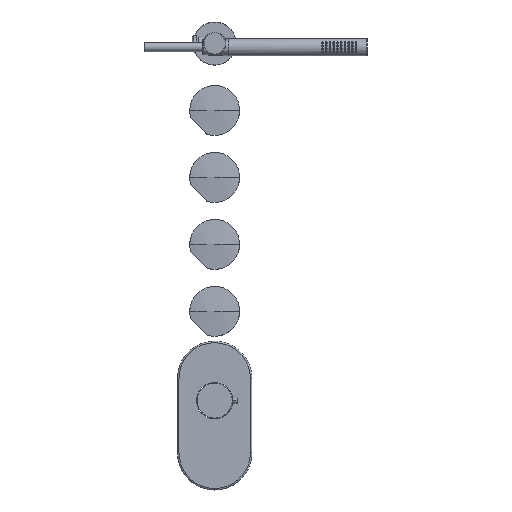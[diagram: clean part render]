
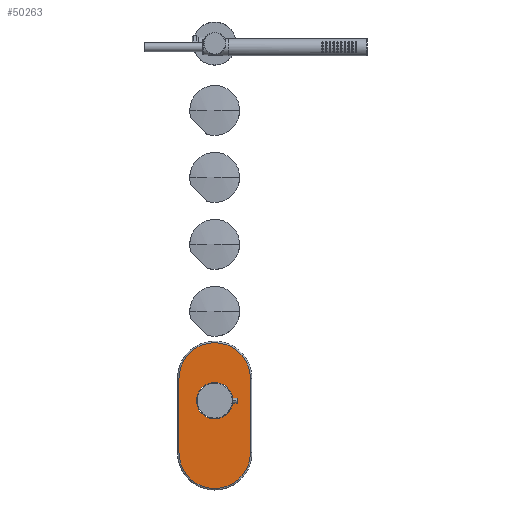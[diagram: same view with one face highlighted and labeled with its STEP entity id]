
A CAD part, top view. The second image highlights one B-rep face of the part: STEP entity #50263.
In plain terms, the highlighted planar face has unit normal (0, 0, 1).
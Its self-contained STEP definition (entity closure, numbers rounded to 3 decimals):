
#49854=DIRECTION('',(0.,1.,0.));
#49855=VECTOR('',#49854,100.);
#49856=CARTESIAN_POINT('',(48.,-70.,7.));
#49857=LINE('',#49856,#49855);
#49858=CARTESIAN_POINT('',(0.,-70.,7.));
#49859=DIRECTION('',(0.,0.,1.));
#49860=DIRECTION('',(-1.,0.,0.));
#49861=AXIS2_PLACEMENT_3D('',#49858,#49859,#49860);
#49863=DIRECTION('',(0.,-1.,0.));
#49864=VECTOR('',#49863,100.);
#49865=CARTESIAN_POINT('',(-48.,30.,7.));
#49866=LINE('',#49865,#49864);
#49867=CARTESIAN_POINT('',(0.,30.,7.));
#49868=DIRECTION('',(0.,0.,1.));
#49869=DIRECTION('',(1.,0.,0.));
#49870=AXIS2_PLACEMENT_3D('',#49867,#49868,#49869);
#49872=CARTESIAN_POINT('',(0.,0.,7.));
#49873=DIRECTION('',(0.,0.,-1.));
#49874=DIRECTION('',(-1.,0.,0.));
#49875=AXIS2_PLACEMENT_3D('',#49872,#49873,#49874);
#49877=CARTESIAN_POINT('',(0.,0.,7.));
#49878=DIRECTION('',(0.,0.,-1.));
#49879=DIRECTION('',(1.,0.,0.));
#49880=AXIS2_PLACEMENT_3D('',#49877,#49878,#49879);
#50133=CARTESIAN_POINT('',(-24.4,0.,7.));
#50135=VERTEX_POINT('',#50133);
#50137=CARTESIAN_POINT('',(24.4,0.,7.));
#50139=VERTEX_POINT('',#50137);
#50172=CARTESIAN_POINT('',(48.,-70.,7.));
#50173=CARTESIAN_POINT('',(48.,30.,7.));
#50174=VERTEX_POINT('',#50172);
#50175=VERTEX_POINT('',#50173);
#50184=CARTESIAN_POINT('',(-48.,30.,7.));
#50185=CARTESIAN_POINT('',(-48.,-70.,7.));
#50186=VERTEX_POINT('',#50184);
#50187=VERTEX_POINT('',#50185);
#50243=CARTESIAN_POINT('',(0.,-20.,7.));
#50244=DIRECTION('',(0.,0.,1.));
#50245=DIRECTION('',(0.,-1.,0.));
#50246=AXIS2_PLACEMENT_3D('',#50243,#50244,#50245);
#50247=PLANE('',#50246);
#50249=ORIENTED_EDGE('',*,*,#50248,.F.);
#50251=ORIENTED_EDGE('',*,*,#50250,.F.);
#50253=ORIENTED_EDGE('',*,*,#50252,.F.);
#50254=ORIENTED_EDGE('',*,*,#50233,.F.);
#50255=EDGE_LOOP('',(#50249,#50251,#50253,#50254));
#50256=FACE_OUTER_BOUND('',#50255,.F.);
#50258=ORIENTED_EDGE('',*,*,#50257,.F.);
#50260=ORIENTED_EDGE('',*,*,#50259,.F.);
#50261=EDGE_LOOP('',(#50258,#50260));
#50262=FACE_BOUND('',#50261,.F.);
#50263=ADVANCED_FACE('',(#50256,#50262),#50247,.T.);
#49862=CIRCLE('',#49861,48.);
#49871=CIRCLE('',#49870,48.);
#49876=CIRCLE('',#49875,24.4);
#49881=CIRCLE('',#49880,24.4);
#50233=EDGE_CURVE('',#50175,#50186,#49871,.T.);
#50248=EDGE_CURVE('',#50174,#50175,#49857,.T.);
#50250=EDGE_CURVE('',#50187,#50174,#49862,.T.);
#50252=EDGE_CURVE('',#50186,#50187,#49866,.T.);
#50257=EDGE_CURVE('',#50135,#50139,#49876,.T.);
#50259=EDGE_CURVE('',#50139,#50135,#49881,.T.);
